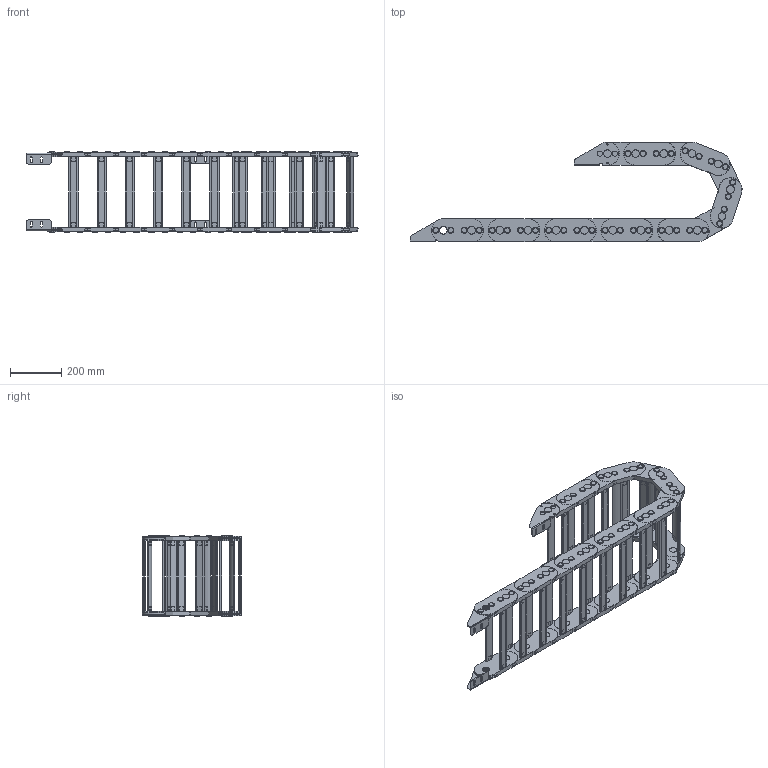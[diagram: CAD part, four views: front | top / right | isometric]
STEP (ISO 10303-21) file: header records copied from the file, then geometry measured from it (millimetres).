
FILE_DESCRIPTION((''),'2;1');
FILE_NAME('GD-65-R150_ASM','2022-07-29T18:59:21',('admin'),(''),'CREO PARAMETRIC BY PTC INC, 2021164','CREO PARAMETRIC BY PTC INC, 2021164','');
FILE_SCHEMA(('CONFIG_CONTROL_DESIGN','GEOMETRIC_VALIDATION_PROPERTIES_MIM'));
Length unit declared in the file: millimetre
Products named in the file (5): 65-R150; 65-R150-1; TLT-1; TLT-2; GD-65-R150_ASM
Assembly tree (18 placements, depth 2):
  GD-65-R150_ASM
    65-R150  x8
    65-R150-1  x8
    TLT-1
    TLT-2
Bounding box: 1293.94 x 388.57 x 315.7 mm (x, y, z)
Volume: 8753095.5 mm3; surface area: 2623882.8 mm2
Topology: 68 solids, 68 shells, 2092 faces, 5478 edges, 3722 vertices
Faces by surface type: cylinder 1004, plane 928, cone 160
Entity records: 16167 total; most frequent: DIRECTION 2482, CARTESIAN_POINT 2384, ORIENTED_EDGE 2220, EDGE_CURVE 1110, AXIS2_PLACEMENT_3D 949, VERTEX_POINT 754, PRESENTATION_STYLE_ASSIGNMENT 634, STYLED_ITEM 633
